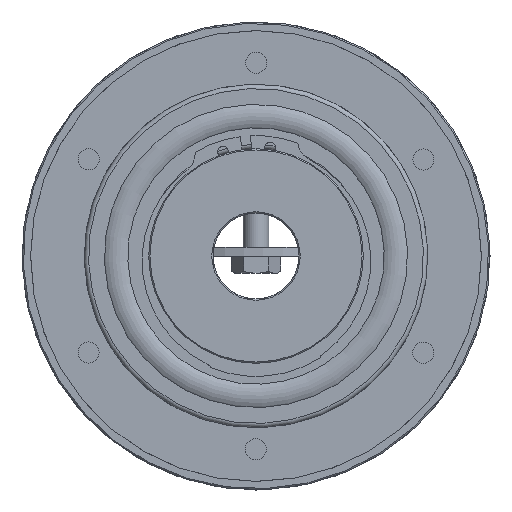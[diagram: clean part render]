
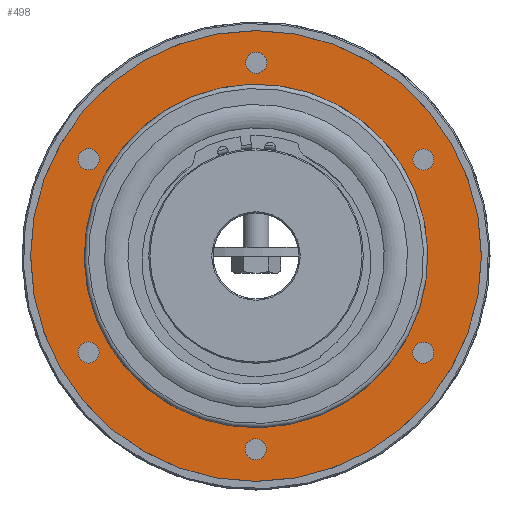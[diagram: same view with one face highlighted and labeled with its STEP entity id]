
A CAD part, left-side view. The second image highlights one B-rep face of the part: STEP entity #498.
In plain terms, the highlighted planar face has unit normal (-1, 0, 0).
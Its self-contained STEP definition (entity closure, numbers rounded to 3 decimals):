
#498 = ADVANCED_FACE( '', ( #1014, #1015, #1016, #1017, #1018, #1019, #1020, #1021 ), #1022, .F. );
#1014 = FACE_OUTER_BOUND( '', #1555, .T. );
#1015 = FACE_BOUND( '', #1556, .T. );
#1016 = FACE_BOUND( '', #1557, .T. );
#1017 = FACE_BOUND( '', #1558, .T. );
#1018 = FACE_BOUND( '', #1559, .T. );
#1019 = FACE_BOUND( '', #1560, .T. );
#1020 = FACE_BOUND( '', #1561, .T. );
#1021 = FACE_BOUND( '', #1562, .T. );
#1022 = PLANE( '', #1563 );
#1555 = EDGE_LOOP( '', ( #2652 ) );
#1556 = EDGE_LOOP( '', ( #2653 ) );
#1557 = EDGE_LOOP( '', ( #2654 ) );
#1558 = EDGE_LOOP( '', ( #2655 ) );
#1559 = EDGE_LOOP( '', ( #2656 ) );
#1560 = EDGE_LOOP( '', ( #2657 ) );
#1561 = EDGE_LOOP( '', ( #2658 ) );
#1562 = EDGE_LOOP( '', ( #2659 ) );
#1563 = AXIS2_PLACEMENT_3D( '', #2660, #2661, #2662 );
#2652 = ORIENTED_EDGE( '', *, *, #2988, .T. );
#2653 = ORIENTED_EDGE( '', *, *, #2989, .T. );
#2654 = ORIENTED_EDGE( '', *, *, #2990, .T. );
#2655 = ORIENTED_EDGE( '', *, *, #2986, .T. );
#2656 = ORIENTED_EDGE( '', *, *, #2991, .T. );
#2657 = ORIENTED_EDGE( '', *, *, #2992, .T. );
#2658 = ORIENTED_EDGE( '', *, *, #2993, .T. );
#2659 = ORIENTED_EDGE( '', *, *, #2983, .F. );
#2660 = CARTESIAN_POINT( '', ( -20.96, 52.5, 0. ) );
#2661 = DIRECTION( '', ( 1., 0., 0. ) );
#2662 = DIRECTION( '', ( 0., 1., 0. ) );
#2983 = EDGE_CURVE( '', #3476, #3476, #3477, .T. );
#2986 = EDGE_CURVE( '', #3482, #3482, #3483, .T. );
#2988 = EDGE_CURVE( '', #3486, #3486, #3487, .T. );
#2989 = EDGE_CURVE( '', #3488, #3488, #3489, .T. );
#2990 = EDGE_CURVE( '', #3490, #3490, #3491, .T. );
#2991 = EDGE_CURVE( '', #3492, #3492, #3493, .T. );
#2992 = EDGE_CURVE( '', #3494, #3494, #3495, .T. );
#2993 = EDGE_CURVE( '', #3496, #3496, #3497, .T. );
#3476 = VERTEX_POINT( '', #4458 );
#3477 = CIRCLE( '', #4459, 40. );
#3482 = VERTEX_POINT( '', #4464 );
#3483 = CIRCLE( '', #4465, 2.459 );
#3486 = VERTEX_POINT( '', #4468 );
#3487 = CIRCLE( '', #4469, 52.5 );
#3488 = VERTEX_POINT( '', #4470 );
#3489 = CIRCLE( '', #4471, 2.459 );
#3490 = VERTEX_POINT( '', #4472 );
#3491 = CIRCLE( '', #4473, 2.459 );
#3492 = VERTEX_POINT( '', #4474 );
#3493 = CIRCLE( '', #4475, 2.459 );
#3494 = VERTEX_POINT( '', #4476 );
#3495 = CIRCLE( '', #4477, 2.459 );
#3496 = VERTEX_POINT( '', #4478 );
#3497 = CIRCLE( '', #4479, 2.459 );
#4458 = CARTESIAN_POINT( '', ( -20.96, 0., 40. ) );
#4459 = AXIS2_PLACEMENT_3D( '', #5096, #5097, #5098 );
#4464 = CARTESIAN_POINT( '', ( -20.96, 0., -47.459 ) );
#4465 = AXIS2_PLACEMENT_3D( '', #5105, #5106, #5107 );
#4468 = CARTESIAN_POINT( '', ( -20.96, 0., 52.5 ) );
#4469 = AXIS2_PLACEMENT_3D( '', #5111, #5112, #5113 );
#4470 = CARTESIAN_POINT( '', ( -20.96, 41.1, 23.729 ) );
#4471 = AXIS2_PLACEMENT_3D( '', #5114, #5115, #5116 );
#4472 = CARTESIAN_POINT( '', ( -20.96, 41.1, -23.729 ) );
#4473 = AXIS2_PLACEMENT_3D( '', #5117, #5118, #5119 );
#4474 = CARTESIAN_POINT( '', ( -20.96, -41.1, -23.729 ) );
#4475 = AXIS2_PLACEMENT_3D( '', #5120, #5121, #5122 );
#4476 = CARTESIAN_POINT( '', ( -20.96, -41.1, 23.729 ) );
#4477 = AXIS2_PLACEMENT_3D( '', #5123, #5124, #5125 );
#4478 = CARTESIAN_POINT( '', ( -20.96, 0., 47.459 ) );
#4479 = AXIS2_PLACEMENT_3D( '', #5126, #5127, #5128 );
#5096 = CARTESIAN_POINT( '', ( -20.96, 0., 0. ) );
#5097 = DIRECTION( '', ( -1., 0., 0. ) );
#5098 = DIRECTION( '', ( 0., 0., 1. ) );
#5105 = CARTESIAN_POINT( '', ( -20.96, 0., -45. ) );
#5106 = DIRECTION( '', ( 1., 0., 0. ) );
#5107 = DIRECTION( '', ( 0., 0., -1. ) );
#5111 = CARTESIAN_POINT( '', ( -20.96, 0., 0. ) );
#5112 = DIRECTION( '', ( -1., 0., 0. ) );
#5113 = DIRECTION( '', ( 0., 0., 1. ) );
#5114 = CARTESIAN_POINT( '', ( -20.96, 38.971, 22.5 ) );
#5115 = DIRECTION( '', ( 1., 0., 0. ) );
#5116 = DIRECTION( '', ( 0., 0.866, 0.5 ) );
#5117 = CARTESIAN_POINT( '', ( -20.96, 38.971, -22.5 ) );
#5118 = DIRECTION( '', ( 1., 0., 0. ) );
#5119 = DIRECTION( '', ( 0., 0.866, -0.5 ) );
#5120 = CARTESIAN_POINT( '', ( -20.96, -38.971, -22.5 ) );
#5121 = DIRECTION( '', ( 1., 0., 0. ) );
#5122 = DIRECTION( '', ( 0., -0.866, -0.5 ) );
#5123 = CARTESIAN_POINT( '', ( -20.96, -38.971, 22.5 ) );
#5124 = DIRECTION( '', ( 1., 0., 0. ) );
#5125 = DIRECTION( '', ( 0., -0.866, 0.5 ) );
#5126 = CARTESIAN_POINT( '', ( -20.96, 0., 45. ) );
#5127 = DIRECTION( '', ( 1., 0., 0. ) );
#5128 = DIRECTION( '', ( 0., 0., 1. ) );
